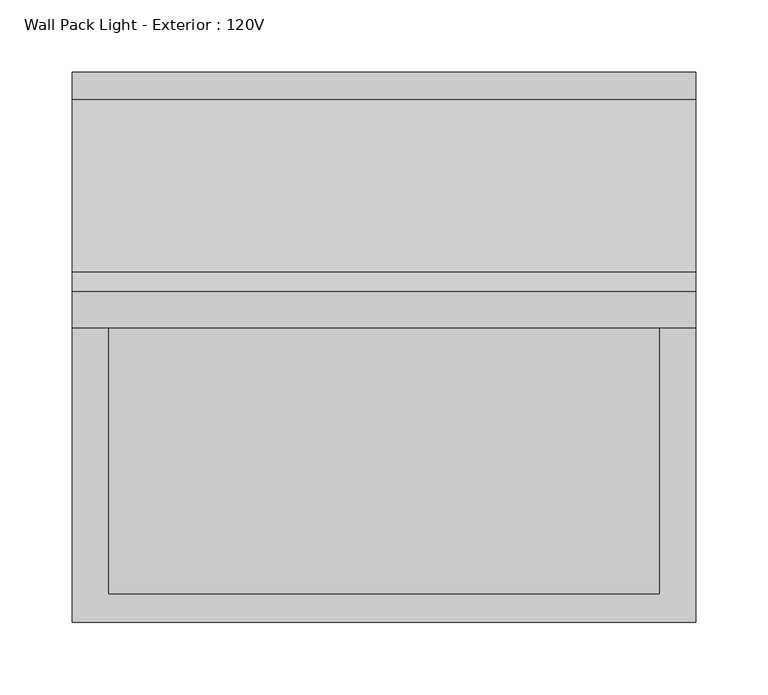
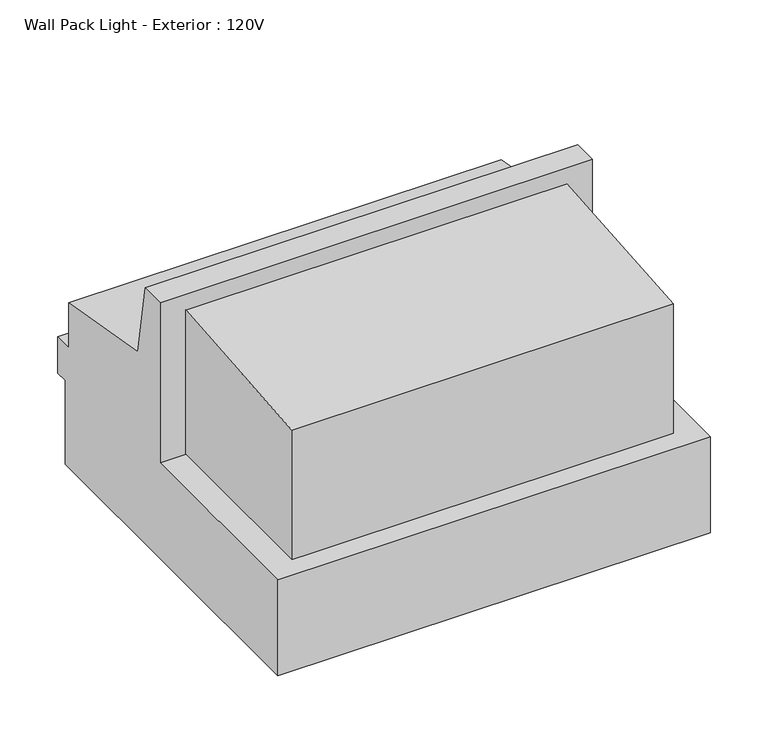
"""IFC4 building model written with IfcOpenShell, lengths in millimetres: light fixture geometry, Wall Pack Light - Exterior : 120V."""

from ifc_helpers import new_model, si_unit, frame, origin, place, context, project, spatial, polyline, outline, extrude, source, transform, mapped, element, save


def wall_pack_light_exterior_120v_ab60a804(model_context):
    return source(origin(), model_context, "Body", "SweptSolid", [
        extrude(outline(polyline([(184.15, 0.0), (-184.15, 0.0), (-184.15, 101.6), (19.84375, 101.6), (19.84375, 270.66875), (45.24375, 270.66875), (58.7375, 195.2625), (177.8, 174.625), (177.8, 127.0), (196.85, 127.0), (196.85, 88.9), (184.15, 88.9), (184.15, 0.0)])), frame((-215.9, 0.0, 0.0), z_axis=(1.0, 0.0, 0.0), x_axis=(0.0, 1.0, 0.0)), (0.0, 0.0, 1.0), 431.8),
        extrude(outline(polyline([(19.84375, 101.6), (-164.30625, 101.6), (-164.30625, 238.8195312), (19.84375, 254.0), (19.84375, 101.6)])), frame((-190.5, 0.0, 0.0), z_axis=(1.0, 0.0, 0.0), x_axis=(0.0, 1.0, 0.0)), (0.0, 0.0, 1.0), 381.0),
    ])


if __name__ == "__main__":
    model = new_model("IFC4")
    model_context = context("Model", 3, world=origin())
    ifc_project = project(units=[si_unit("LENGTHUNIT", "METRE", prefix="MILLI")], contexts=[model_context])
    site = spatial("IfcSite", under=ifc_project)
    building = spatial("IfcBuilding", under=site)
    placement = place(None, origin())
    wall_pack_light_exterior_120v_shape = wall_pack_light_exterior_120v_ab60a804(model_context)
    element("IfcLightFixture", 1, ObjectType="Wall Pack Light - Exterior : 120V", at=placement, inside=building, context=model_context, shape_type="MappedRepresentation", body=[
        mapped(wall_pack_light_exterior_120v_shape, transform((0.0, 0.0, 0.0), x_axis=(1.0, 0.0, 0.0), y_axis=(0.0, 1.0, 0.0), z_axis=(0.0, 0.0, 1.0))),
    ])
    save(model, "model.ifc")
